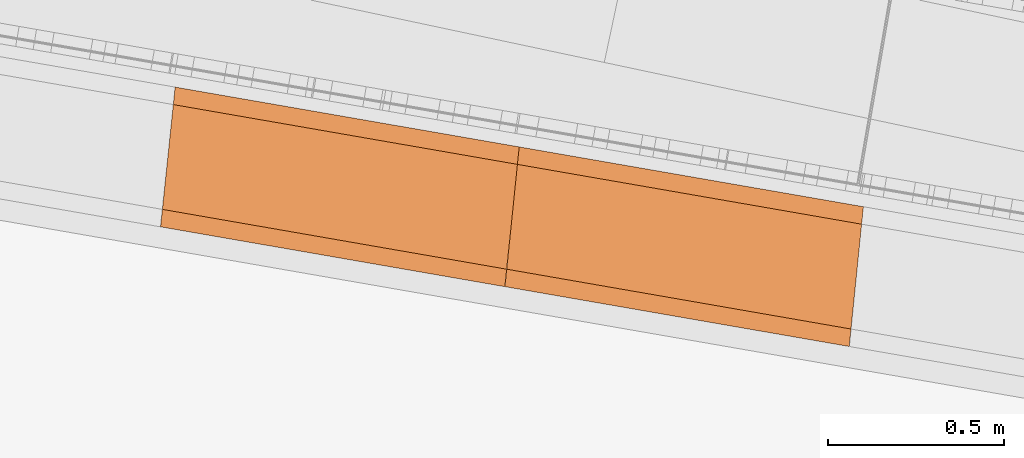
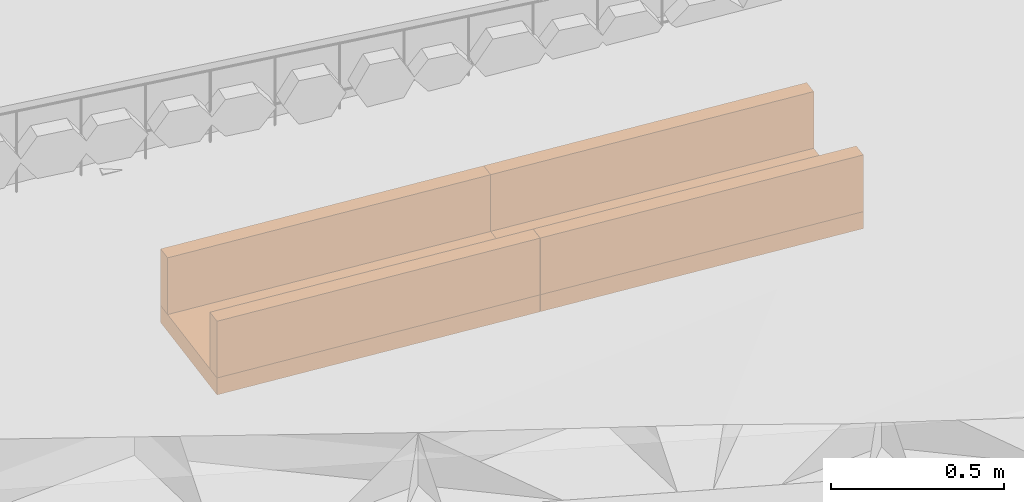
# Not in any storey, part 42 of 45: 6 proxies.
"""IFC4 model written with IfcOpenShell, lengths in metres."""

from ifc_helpers import new_model, si_unit, direction, frame, origin_with_axes, place, context, subcontext, project, spatial, polygons, material, element, save


model = new_model("IFC4")

# Units and contexts
model_context = context("Model", 3, precision=1e-05, world=origin_with_axes(), true_north=direction((0.0, 1.0)))
body_context = subcontext(model_context, "Body", "Model", "MODEL_VIEW")
ifc_project = project(units=[si_unit("VOLUMEUNIT", "CUBIC_METRE"), si_unit("LENGTHUNIT", "METRE"), si_unit("AREAUNIT", "SQUARE_METRE")], contexts=[model_context])

# Site
site_placement = place(None, origin_with_axes())
site = spatial("IfcSite", under=ifc_project, at=site_placement, Name="Lares · Rua das Mercês · artigo 4771")

# Proxies
ifc_material = material(Name="Caleiras · betão", Category="concrete")
proxy_1_placement = place(site_placement, frame((0.0, 0.0, 0.0), z_axis=(0.0, 0.0, 1.0), x_axis=(1.0, -1.03767253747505e-17, 0.0)))
element("IfcBuildingElementProxy", 1, at=proxy_1_placement, inside=site, material=ifc_material, Name="Acesso · canal lateral", ObjectType="Acesso · canal lateral", PredefinedType="USERDEFINED", context=body_context, shape_type="Tessellation", body=[
    polygons([(75.3751172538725, 6.9972366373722, 15.5669565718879), (75.4165372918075, 7.39508633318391, 15.5669565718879), (76.3966624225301, 7.22478058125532, 15.620563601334), (76.3552423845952, 6.82693088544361, 15.620563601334), (75.3751172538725, 6.9972366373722, 15.6269565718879), (75.4165372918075, 7.39508633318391, 15.6269565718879), (76.3966624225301, 7.22478058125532, 15.680563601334), (76.3552423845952, 6.82693088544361, 15.680563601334)], [[[4, 3, 2, 1]], [[5, 6, 7, 8]], [[1, 2, 6, 5]], [[2, 3, 7, 6]], [[3, 4, 8, 7]], [[4, 1, 5, 8]]]),
])
proxy_2_placement = place(site_placement, frame((0.0, 0.0, 0.0), z_axis=(0.0, 0.0, 1.0), x_axis=(1.0, -1.03767253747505e-17, 0.0)))
element("IfcBuildingElementProxy", 2, at=proxy_2_placement, inside=site, material=ifc_material, Name="Acesso · canal lateral", ObjectType="Acesso · canal lateral", PredefinedType="USERDEFINED", context=body_context, shape_type="Tessellation", body=[
    polygons([(75.3751172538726, 6.9972366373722, 15.6269565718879), (75.3802947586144, 7.04696784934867, 15.6269565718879), (76.360419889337, 6.87666209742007, 15.680563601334), (76.3552423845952, 6.82693088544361, 15.680563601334), (75.3751172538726, 6.9972366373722, 15.8269565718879), (75.3802947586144, 7.04696784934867, 15.8269565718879), (76.360419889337, 6.87666209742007, 15.880563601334), (76.3552423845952, 6.82693088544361, 15.880563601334)], [[[4, 3, 2, 1]], [[5, 6, 7, 8]], [[1, 2, 6, 5]], [[2, 3, 7, 6]], [[3, 4, 8, 7]], [[4, 1, 5, 8]]]),
])
proxy_3_placement = place(site_placement, frame((0.0, 0.0, 0.0), z_axis=(0.0, 0.0, 1.0), x_axis=(1.0, -1.03767253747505e-17, 0.0)))
element("IfcBuildingElementProxy", 3, at=proxy_3_placement, inside=site, material=ifc_material, Name="Acesso · canal lateral", ObjectType="Acesso · canal lateral", PredefinedType="USERDEFINED", context=body_context, shape_type="Tessellation", body=[
    polygons([(75.4113597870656, 7.34535512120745, 15.6269565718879), (75.4165372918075, 7.39508633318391, 15.6269565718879), (76.3966624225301, 7.22478058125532, 15.680563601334), (76.3914849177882, 7.17504936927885, 15.680563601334), (75.4113597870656, 7.34535512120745, 15.8269565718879), (75.4165372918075, 7.39508633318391, 15.8269565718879), (76.3966624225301, 7.22478058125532, 15.880563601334), (76.3914849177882, 7.17504936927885, 15.880563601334)], [[[4, 3, 2, 1]], [[5, 6, 7, 8]], [[1, 2, 6, 5]], [[2, 3, 7, 6]], [[3, 4, 8, 7]], [[4, 1, 5, 8]]]),
])
proxy_4_placement = place(site_placement, frame((0.0, 0.0, 0.0), z_axis=(0.0, 0.0, 1.0), x_axis=(1.0, -1.03767253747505e-17, 0.0)))
element("IfcBuildingElementProxy", 4, at=proxy_4_placement, inside=site, material=ifc_material, Name="Acesso · canal lateral", ObjectType="Acesso · canal lateral", PredefinedType="USERDEFINED", context=body_context, shape_type="Tessellation", body=[
    polygons([(76.3557132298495, 6.82688242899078, 15.620563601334), (76.3961915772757, 7.22482903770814, 15.620563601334), (77.3762955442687, 7.05452399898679, 15.6741706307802), (77.3358171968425, 6.65657739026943, 15.6741706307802), (76.3557132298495, 6.82688242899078, 15.680563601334), (76.3961915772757, 7.22482903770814, 15.680563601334), (77.3762955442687, 7.05452399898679, 15.7341706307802), (77.3358171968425, 6.65657739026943, 15.7341706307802)], [[[4, 3, 2, 1]], [[5, 6, 7, 8]], [[1, 2, 6, 5]], [[2, 3, 7, 6]], [[3, 4, 8, 7]], [[4, 1, 5, 8]]]),
])
proxy_5_placement = place(site_placement, frame((0.0, 0.0, 0.0), z_axis=(0.0, 0.0, 1.0), x_axis=(1.0, -1.03767253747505e-17, 0.0)))
element("IfcBuildingElementProxy", 5, at=proxy_5_placement, inside=site, material=ifc_material, Name="Acesso · canal lateral", ObjectType="Acesso · canal lateral", PredefinedType="USERDEFINED", context=body_context, shape_type="Tessellation", body=[
    polygons([(76.3557132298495, 6.82688242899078, 15.680563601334), (76.3607730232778, 6.87662575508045, 15.680563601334), (77.3408769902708, 6.7063207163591, 15.7341706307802), (77.3358171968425, 6.65657739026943, 15.7341706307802), (76.3557132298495, 6.82688242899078, 15.880563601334), (76.3607730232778, 6.87662575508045, 15.880563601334), (77.3408769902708, 6.7063207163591, 15.9341706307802), (77.3358171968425, 6.65657739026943, 15.9341706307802)], [[[4, 3, 2, 1]], [[5, 6, 7, 8]], [[1, 2, 6, 5]], [[2, 3, 7, 6]], [[3, 4, 8, 7]], [[4, 1, 5, 8]]]),
])
proxy_6_placement = place(site_placement, frame((0.0, 0.0, 0.0), z_axis=(0.0, 0.0, 1.0), x_axis=(1.0, -1.03767253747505e-17, 0.0)))
element("IfcBuildingElementProxy", 6, at=proxy_6_placement, inside=site, material=ifc_material, Name="Acesso · canal lateral", ObjectType="Acesso · canal lateral", PredefinedType="USERDEFINED", context=body_context, shape_type="Tessellation", body=[
    polygons([(76.3911317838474, 7.17508571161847, 15.680563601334), (76.3961915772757, 7.22482903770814, 15.680563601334), (77.3762955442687, 7.05452399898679, 15.7341706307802), (77.3712357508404, 7.00478067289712, 15.7341706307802), (76.3911317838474, 7.17508571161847, 15.880563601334), (76.3961915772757, 7.22482903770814, 15.880563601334), (77.3762955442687, 7.05452399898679, 15.9341706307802), (77.3712357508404, 7.00478067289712, 15.9341706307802)], [[[4, 3, 2, 1]], [[5, 6, 7, 8]], [[1, 2, 6, 5]], [[2, 3, 7, 6]], [[3, 4, 8, 7]], [[4, 1, 5, 8]]]),
])

save(model, "model.ifc")
